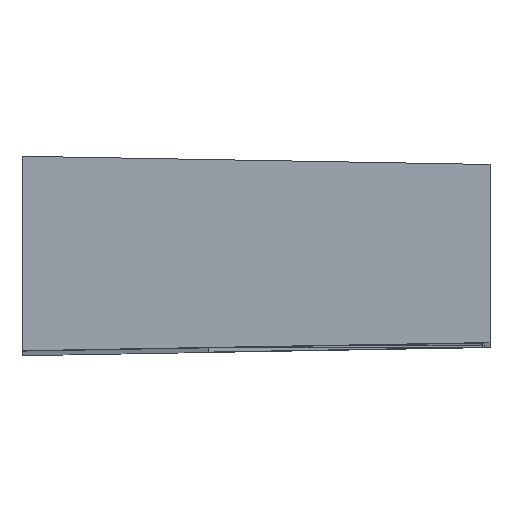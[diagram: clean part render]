
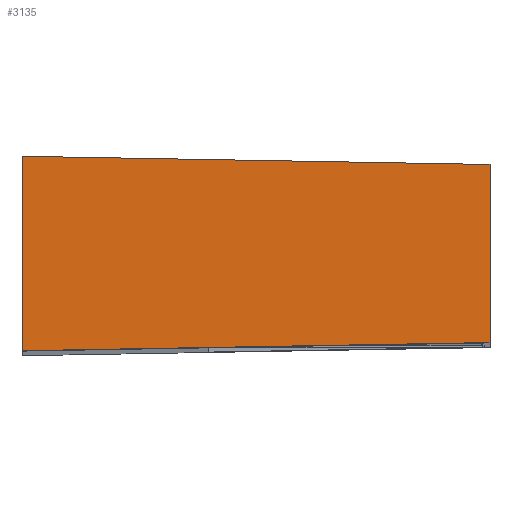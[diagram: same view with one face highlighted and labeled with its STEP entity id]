
A CAD part, top view. The second image highlights one B-rep face of the part: STEP entity #3135.
In plain terms, the highlighted planar face has unit normal (0.018, 0, 1).
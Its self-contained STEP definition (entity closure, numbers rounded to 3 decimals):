
#58 = VECTOR ( 'NONE', #1712, 1000. ) ;
#122 = CARTESIAN_POINT ( 'NONE',  ( -22.5, -23.472, 640.836 ) ) ;
#135 = LINE ( 'NONE', #1459, #58 ) ;
#212 = VERTEX_POINT ( 'NONE', #1306 ) ;
#614 = DIRECTION ( 'NONE',  ( 0.017, 0., 1. ) ) ;
#620 = EDGE_CURVE ( 'NONE', #2358, #2930, #2367, .T. ) ;
#627 = ORIENTED_EDGE ( 'NONE', *, *, #620, .T. ) ;
#727 = ORIENTED_EDGE ( 'NONE', *, *, #3090, .F. ) ;
#851 = CARTESIAN_POINT ( 'NONE',  ( 90.5, -21.5, 638.864 ) ) ;
#941 = VECTOR ( 'NONE', #2627, 1000. ) ;
#999 = VECTOR ( 'NONE', #3216, 1000. ) ;
#1038 = ORIENTED_EDGE ( 'NONE', *, *, #2742, .F. ) ;
#1166 = AXIS2_PLACEMENT_3D ( 'NONE', #2977, #614, #2465 ) ;
#1306 = CARTESIAN_POINT ( 'NONE',  ( -22.5, 23.472, 640.836 ) ) ;
#1319 = VERTEX_POINT ( 'NONE', #1325 ) ;
#1325 = CARTESIAN_POINT ( 'NONE',  ( 90.5, 21.5, 638.864 ) ) ;
#1383 = LINE ( 'NONE', #1921, #2617 ) ;
#1402 = PLANE ( 'NONE',  #1166 ) ;
#1459 = CARTESIAN_POINT ( 'NONE',  ( 90.5, 21.5, 638.864 ) ) ;
#1575 = CARTESIAN_POINT ( 'NONE',  ( 90.5, -21.5, 638.864 ) ) ;
#1607 = EDGE_CURVE ( 'NONE', #2930, #1319, #1797, .T. ) ;
#1712 = DIRECTION ( 'NONE',  ( 1., -0.017, -0.017 ) ) ;
#1797 = LINE ( 'NONE', #851, #999 ) ;
#1825 = EDGE_LOOP ( 'NONE', ( #2725, #1038, #727, #627 ) ) ;
#1834 = FACE_OUTER_BOUND ( 'NONE', #1825, .T. ) ;
#1921 = CARTESIAN_POINT ( 'NONE',  ( -22.5, -21.5, 640.836 ) ) ;
#2203 = DIRECTION ( 'NONE',  ( 0., 1., 0. ) ) ;
#2358 = VERTEX_POINT ( 'NONE', #122 ) ;
#2367 = LINE ( 'NONE', #2376, #941 ) ;
#2376 = CARTESIAN_POINT ( 'NONE',  ( 90.5, -21.5, 638.864 ) ) ;
#2465 = DIRECTION ( 'NONE',  ( -1., 0., 0.017 ) ) ;
#2617 = VECTOR ( 'NONE', #2203, 1000. ) ;
#2627 = DIRECTION ( 'NONE',  ( 1., 0.017, -0.017 ) ) ;
#2725 = ORIENTED_EDGE ( 'NONE', *, *, #1607, .T. ) ;
#2742 = EDGE_CURVE ( 'NONE', #212, #1319, #135, .T. ) ;
#2930 = VERTEX_POINT ( 'NONE', #1575 ) ;
#2977 = CARTESIAN_POINT ( 'NONE',  ( 90.5, -21.5, 638.864 ) ) ;
#3090 = EDGE_CURVE ( 'NONE', #2358, #212, #1383, .T. ) ;
#3135 = ADVANCED_FACE ( 'NONE', ( #1834 ), #1402, .T. ) ;
#3216 = DIRECTION ( 'NONE',  ( 0., 1., 0. ) ) ;
